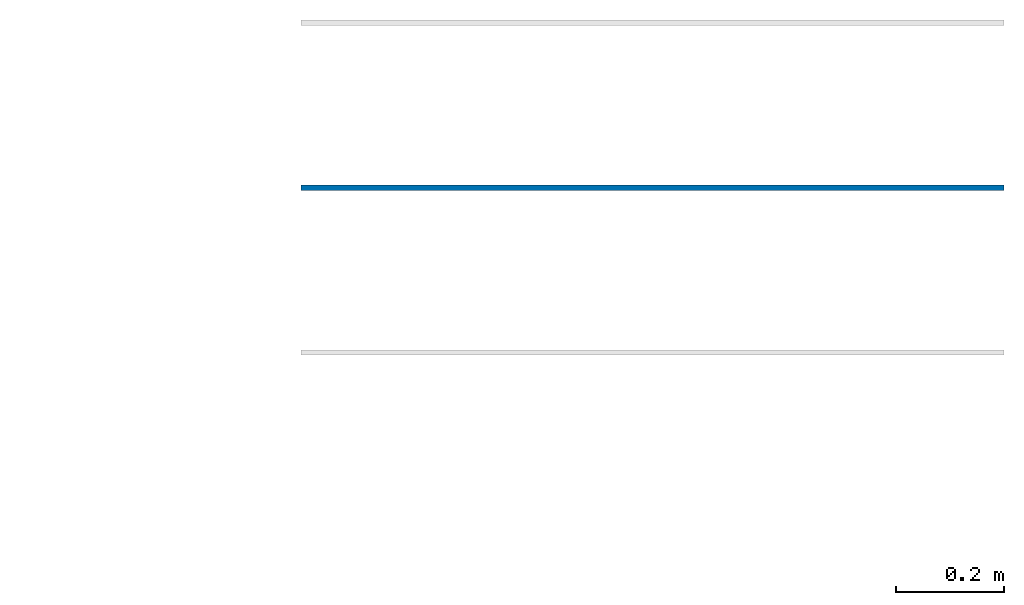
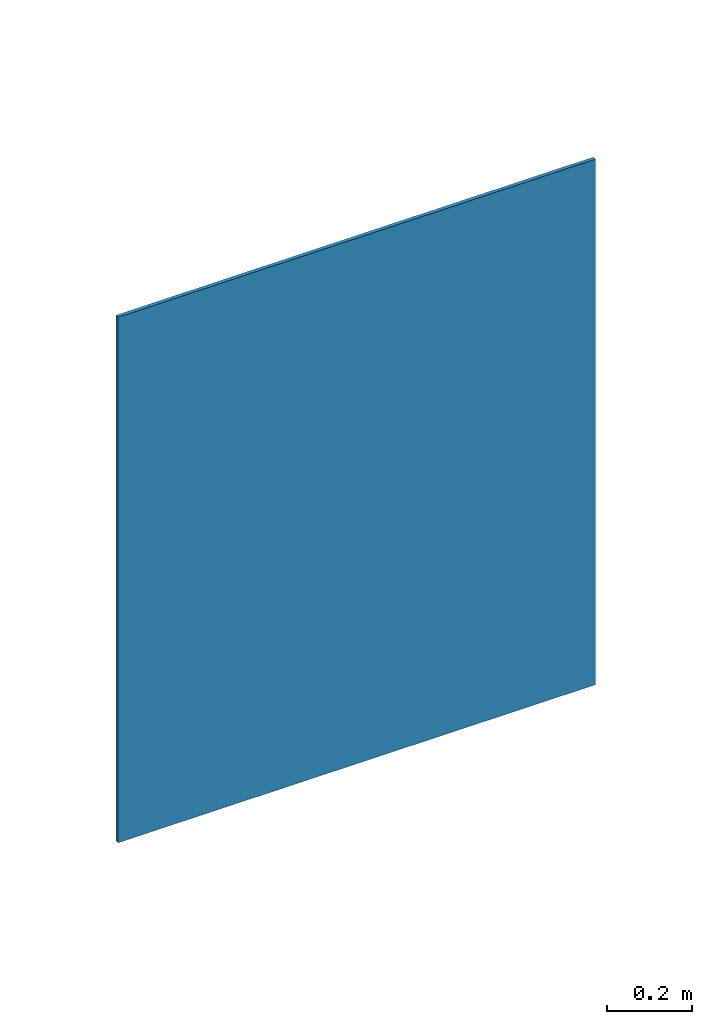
# One storey, part 2 of 2: 1 wall.
"""IFC2X3 building model written with IfcOpenShell, lengths in millimetres."""

from ifc_helpers import new_model, entity, si_unit, converted_unit, derived_unit, direction, frame, frame_2d, origin, place, context, subcontext, project, spatial, rectangle, extrude, material, layer, layer_set, layer_usage, type_object, element, save


model = new_model("IFC2X3")

# Units and contexts
model_context = context("Model", 3, precision=0.01, world=origin(), true_north=direction((6.123031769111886e-17, 1.0)))
body_context = subcontext(model_context, "Body", "Model", "MODEL_VIEW")
ifc_project = project(units=[si_unit("LENGTHUNIT", "METRE", prefix="MILLI"), si_unit("AREAUNIT", "SQUARE_METRE"), si_unit("VOLUMEUNIT", "CUBIC_METRE"), converted_unit("PLANEANGLEUNIT", "DEGREE", entity("IfcPlaneAngleMeasure", 0.017453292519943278), si_unit("PLANEANGLEUNIT", "RADIAN"), dimensions=[0, 0, 0, 0, 0, 0, 0]), si_unit("MASSUNIT", "GRAM", prefix="KILO"), derived_unit("MASSDENSITYUNIT", [(si_unit("MASSUNIT", "GRAM", prefix="KILO"), 1), (si_unit("LENGTHUNIT", "METRE"), -3)]), derived_unit("IONCONCENTRATIONUNIT", [(si_unit("MASSUNIT", "GRAM", prefix="KILO"), 1), (si_unit("LENGTHUNIT", "METRE"), -3)]), derived_unit("MOMENTOFINERTIAUNIT", [(si_unit("LENGTHUNIT", "METRE"), 4)]), si_unit("TIMEUNIT", "SECOND"), si_unit("FREQUENCYUNIT", "HERTZ"), si_unit("THERMODYNAMICTEMPERATUREUNIT", "DEGREE_CELSIUS"), derived_unit("THERMALTRANSMITTANCEUNIT", [(si_unit("MASSUNIT", "GRAM", prefix="KILO"), 1), (si_unit("THERMODYNAMICTEMPERATUREUNIT", "KELVIN"), -1), (si_unit("TIMEUNIT", "SECOND"), -3)]), derived_unit("THERMALCONDUCTANCEUNIT", [(si_unit("MASSUNIT", "GRAM", prefix="KILO"), 1), (si_unit("THERMODYNAMICTEMPERATUREUNIT", "KELVIN"), -1), (si_unit("TIMEUNIT", "SECOND"), -3), (si_unit("LENGTHUNIT", "METRE"), 1)]), derived_unit("VOLUMETRICFLOWRATEUNIT", [(si_unit("LENGTHUNIT", "METRE", prefix="DECI"), 3), (si_unit("TIMEUNIT", "SECOND"), -1)]), derived_unit("MASSFLOWRATEUNIT", [(si_unit("MASSUNIT", "GRAM", prefix="KILO"), 1), (si_unit("TIMEUNIT", "SECOND"), -1)]), derived_unit("ROTATIONALFREQUENCYUNIT", [(si_unit("TIMEUNIT", "SECOND"), -1)]), si_unit("ELECTRICCURRENTUNIT", "AMPERE"), si_unit("ELECTRICVOLTAGEUNIT", "VOLT"), si_unit("POWERUNIT", "WATT"), si_unit("FORCEUNIT", "NEWTON", prefix="KILO"), si_unit("ILLUMINANCEUNIT", "LUX"), si_unit("LUMINOUSFLUXUNIT", "LUMEN"), si_unit("LUMINOUSINTENSITYUNIT", "CANDELA"), si_unit("ENERGYUNIT", "JOULE"), derived_unit("USERDEFINED", [(si_unit("MASSUNIT", "GRAM", prefix="KILO"), -1), (si_unit("LENGTHUNIT", "METRE"), -2), (si_unit("TIMEUNIT", "SECOND"), 3), (si_unit("LUMINOUSFLUXUNIT", "LUMEN"), 1)]), derived_unit("USERDEFINED", [(si_unit("MASSUNIT", "GRAM", prefix="KILO"), 1), (si_unit("TIMEUNIT", "SECOND"), -3), (si_unit("LENGTHUNIT", "METRE"), 3), (si_unit("ELECTRICCURRENTUNIT", "AMPERE"), -2)]), derived_unit("SOUNDPOWERUNIT", [(si_unit("MASSUNIT", "GRAM", prefix="KILO"), 1), (si_unit("TIMEUNIT", "SECOND"), -3), (si_unit("LENGTHUNIT", "METRE"), 2)]), derived_unit("SOUNDPRESSUREUNIT", [(si_unit("MASSUNIT", "GRAM", prefix="KILO"), 1), (si_unit("LENGTHUNIT", "METRE"), -1), (si_unit("TIMEUNIT", "SECOND"), -2)]), derived_unit("LINEARVELOCITYUNIT", [(si_unit("LENGTHUNIT", "METRE"), 1), (si_unit("TIMEUNIT", "SECOND"), -1)]), si_unit("PRESSUREUNIT", "PASCAL"), derived_unit("USERDEFINED", [(si_unit("MASSUNIT", "GRAM", prefix="KILO"), 1), (si_unit("LENGTHUNIT", "METRE"), -2), (si_unit("TIMEUNIT", "SECOND"), -2)]), derived_unit("LINEARFORCEUNIT", [(si_unit("MASSUNIT", "GRAM", prefix="KILO"), 1), (si_unit("TIMEUNIT", "SECOND"), -2)]), derived_unit("PLANARFORCEUNIT", [(si_unit("MASSUNIT", "GRAM", prefix="KILO"), 1), (si_unit("LENGTHUNIT", "METRE"), -1), (si_unit("TIMEUNIT", "SECOND"), -2)]), derived_unit("SPECIFICHEATCAPACITYUNIT", [(si_unit("THERMODYNAMICTEMPERATUREUNIT", "KELVIN"), -1), (si_unit("LENGTHUNIT", "METRE"), 2), (si_unit("TIMEUNIT", "SECOND"), -2)]), derived_unit("HEATFLUXDENSITYUNIT", [(si_unit("MASSUNIT", "GRAM", prefix="KILO"), 1), (si_unit("TIMEUNIT", "SECOND"), -3)]), derived_unit("HEATINGVALUEUNIT", [(si_unit("LENGTHUNIT", "METRE"), 2), (si_unit("TIMEUNIT", "SECOND"), -2)]), derived_unit("VAPORPERMEABILITYUNIT", [(si_unit("LENGTHUNIT", "METRE"), -1), (si_unit("TIMEUNIT", "SECOND"), 1)]), derived_unit("DYNAMICVISCOSITYUNIT", [(si_unit("MASSUNIT", "GRAM", prefix="KILO"), 1), (si_unit("TIMEUNIT", "SECOND"), -1), (si_unit("LENGTHUNIT", "METRE"), -1)]), derived_unit("THERMALEXPANSIONCOEFFICIENTUNIT", [(si_unit("THERMODYNAMICTEMPERATUREUNIT", "KELVIN"), -1)]), derived_unit("MODULUSOFELASTICITYUNIT", [(si_unit("MASSUNIT", "GRAM", prefix="KILO"), 1), (si_unit("LENGTHUNIT", "METRE"), -1), (si_unit("TIMEUNIT", "SECOND"), -2)]), derived_unit("ISOTHERMALMOISTURECAPACITYUNIT", [(si_unit("MASSUNIT", "GRAM", prefix="KILO"), -1), (si_unit("LENGTHUNIT", "METRE"), 3)]), derived_unit("MOISTUREDIFFUSIVITYUNIT", [(si_unit("TIMEUNIT", "SECOND"), -1), (si_unit("LENGTHUNIT", "METRE"), 2)]), derived_unit("MASSPERLENGTHUNIT", [(si_unit("MASSUNIT", "GRAM", prefix="KILO"), 1), (si_unit("LENGTHUNIT", "METRE"), -1)]), derived_unit("THERMALRESISTANCEUNIT", [(si_unit("MASSUNIT", "GRAM", prefix="KILO"), -1), (si_unit("TIMEUNIT", "SECOND"), 3), (si_unit("THERMODYNAMICTEMPERATUREUNIT", "KELVIN"), 1)]), derived_unit("ACCELERATIONUNIT", [(si_unit("LENGTHUNIT", "METRE"), 1), (si_unit("TIMEUNIT", "SECOND"), -2)]), derived_unit("ANGULARVELOCITYUNIT", [(si_unit("TIMEUNIT", "SECOND"), -1), (si_unit("PLANEANGLEUNIT", "RADIAN"), 1)]), derived_unit("LINEARSTIFFNESSUNIT", [(si_unit("MASSUNIT", "GRAM", prefix="KILO"), 1), (si_unit("TIMEUNIT", "SECOND"), -2)]), derived_unit("WARPINGCONSTANTUNIT", [(si_unit("LENGTHUNIT", "METRE"), 6)]), derived_unit("LINEARMOMENTUNIT", [(si_unit("MASSUNIT", "GRAM", prefix="KILO"), 1), (si_unit("LENGTHUNIT", "METRE"), 1), (si_unit("TIMEUNIT", "SECOND"), -2)]), derived_unit("TORQUEUNIT", [(si_unit("MASSUNIT", "GRAM", prefix="KILO"), 1), (si_unit("LENGTHUNIT", "METRE"), 2), (si_unit("TIMEUNIT", "SECOND"), -2)])], contexts=[model_context])

# Site, building, storey
site_placement = place(None, origin())
site = spatial("IfcSite", under=ifc_project, at=site_placement, Name="Default", CompositionType="ELEMENT")
building_placement = place(site_placement, origin())
building = spatial("IfcBuilding", under=site, at=building_placement, CompositionType="ELEMENT")
storey_placement = place(building_placement, origin())
storey = spatial("IfcBuildingStorey", under=building, at=storey_placement, Name="Level 0", CompositionType="ELEMENT", Elevation=0.0)

# Wall
ifc_material_1 = material(Name="<Unnamed>")
ifc_layer_1 = layer(ifc_material_1, 1.0)
ifc_material_2 = material(Name="Prestigio-Calacatta-Oro-Matt-60x120 RC52")
ifc_layer_2 = layer(ifc_material_2, 9.0)
ifc_layer_set = layer_set([ifc_layer_1, ifc_layer_2], Name="Basic Wall:Wall_Tiles_Refin-Prestigio-Calacatta-Oro-Matt-60x120 RC52")
ifc_layer_usage = layer_usage(ifc_layer_set, "AXIS2", "NEGATIVE", 5.000000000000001)
wall_type = type_object("IfcWallType", Name="Basic Wall:Wall_Tiles_Refin-Prestigio-Calacatta-Oro-Matt-60x120 RC52", PredefinedType="STANDARD", material=ifc_layer_set)
wall_placement = place(storey_placement, frame((12657.37520617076, 7832.383863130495, 11452.543626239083)))
element("IfcWallStandardCase", 1, at=wall_placement, inside=storey, type_object=wall_type, material=ifc_layer_usage, Name="Basic Wall:Wall_Tiles_Refin-Prestigio-Calacatta-Oro-Matt-60x120 RC52", ObjectType="Basic Wall:Wall_Tiles_Refin-Prestigio-Calacatta-Oro-Matt-60x120 RC52", context=body_context, shape_type="SweptSolid", body=[
    extrude(rectangle(XDim=1299.999999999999, YDim=9.999999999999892, at=frame_2d((649.9999999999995, 0.0), x_axis=(-1.0, 0.0))), origin(), (0.0, 0.0, 1.0), 1513.1985565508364),
])

save(model, "model.ifc")
